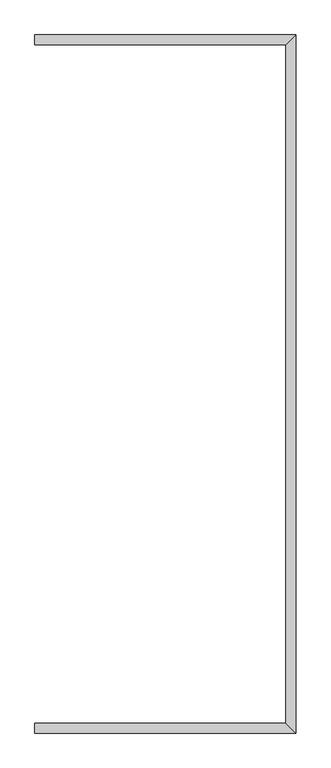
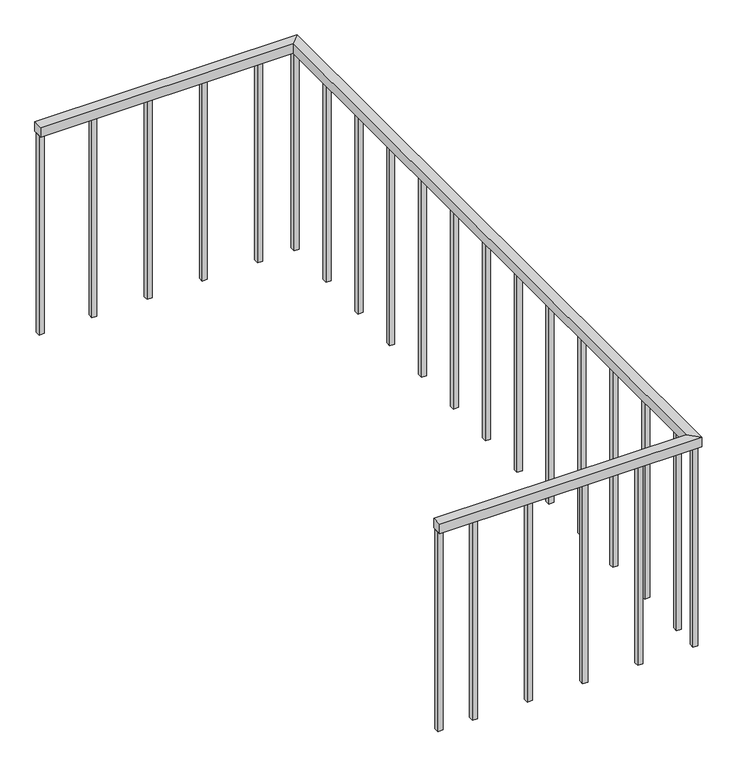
"""IFC4 building model written with IfcOpenShell, lengths in millimetres: railing geometry, 1100 мм."""

from ifc_helpers import new_model, si_unit, frame, origin, place, context, project, spatial, polyline, outline, extrude, faceted_brep, source, transform, mapped, element, save


def railing_185072cb(model_context):
    return source(origin(), model_context, "Body", "SolidModel", [
        faceted_brep([(-1749.2998207, 4186.9374152, 4400.0), (-1749.2998207, 4236.9374152, 4400.0), (-1749.2998207, 4236.9374152, 4350.0), (-1749.2998207, 4186.9374152, 4350.0), (-491.7998207, 4186.9374152, 4400.0), (-441.7998207, 4236.9374152, 4400.0), (-441.7998207, 4236.9374152, 4350.0), (-491.7998207, 4186.9374152, 4350.0), (-491.7998207, 794.4374152, 4400.0), (-441.7998207, 744.4374152, 4400.0), (-441.7998207, 744.4374152, 4350.0), (-491.7998207, 794.4374152, 4350.0), (-1749.2998207, 794.4374152, 4400.0), (-1749.2998207, 794.4374152, 4350.0), (-1749.2998207, 744.4374152, 4350.0), (-1749.2998207, 744.4374152, 4400.0)], [[[0, 1, 2, 3]], [[1, 0, 4, 5]], [[2, 1, 5, 6]], [[3, 2, 6, 7]], [[0, 3, 7, 4]], [[5, 4, 8, 9]], [[6, 5, 9, 10]], [[7, 6, 10, 11]], [[4, 7, 11, 8]], [[12, 13, 14, 15]], [[9, 8, 12, 15]], [[10, 9, 15, 14]], [[11, 10, 14, 13]], [[8, 11, 13, 12]]]),
        extrude(outline(polyline([(-1554.2998207, 781.9374152), (-1554.2998207, 756.9374152), (-1579.2998207, 756.9374152), (-1579.2998207, 781.9374152), (-1554.2998207, 781.9374152)])), frame((0.0, 0.0, 3300.0), z_axis=(0.0, 0.0, 1.0), x_axis=(1.0, 0.0, 0.0)), (0.0, 0.0, 1.0), 1050.0),
        extrude(outline(polyline([(-1279.2998207, 781.9374152), (-1279.2998207, 756.9374152), (-1304.2998207, 756.9374152), (-1304.2998207, 781.9374152), (-1279.2998207, 781.9374152)])), frame((0.0, 0.0, 3300.0), z_axis=(0.0, 0.0, 1.0), x_axis=(1.0, 0.0, 0.0)), (0.0, 0.0, 1.0), 1050.0),
        extrude(outline(polyline([(-1004.2998207, 781.9374152), (-1004.2998207, 756.9374152), (-1029.2998207, 756.9374152), (-1029.2998207, 781.9374152), (-1004.2998207, 781.9374152)])), frame((0.0, 0.0, 3300.0), z_axis=(0.0, 0.0, 1.0), x_axis=(1.0, 0.0, 0.0)), (0.0, 0.0, 1.0), 1050.0),
        extrude(outline(polyline([(-729.2998207, 781.9374152), (-729.2998207, 756.9374152), (-754.2998207, 756.9374152), (-754.2998207, 781.9374152), (-729.2998207, 781.9374152)])), frame((0.0, 0.0, 3300.0), z_axis=(0.0, 0.0, 1.0), x_axis=(1.0, 0.0, 0.0)), (0.0, 0.0, 1.0), 1050.0),
        extrude(outline(polyline([(-479.2998207, 924.4374152), (-454.2998207, 924.4374152), (-454.2998207, 899.4374152), (-479.2998207, 899.4374152), (-479.2998207, 924.4374152)])), frame((0.0, 0.0, 3300.0), z_axis=(0.0, 0.0, 1.0), x_axis=(1.0, 0.0, 0.0)), (0.0, 0.0, 1.0), 1050.0),
        extrude(outline(polyline([(-479.2998207, 1199.4374152), (-454.2998207, 1199.4374152), (-454.2998207, 1174.4374152), (-479.2998207, 1174.4374152), (-479.2998207, 1199.4374152)])), frame((0.0, 0.0, 3300.0), z_axis=(0.0, 0.0, 1.0), x_axis=(1.0, 0.0, 0.0)), (0.0, 0.0, 1.0), 1050.0),
        extrude(outline(polyline([(-479.2998207, 1474.4374152), (-454.2998207, 1474.4374152), (-454.2998207, 1449.4374152), (-479.2998207, 1449.4374152), (-479.2998207, 1474.4374152)])), frame((0.0, 0.0, 3300.0), z_axis=(0.0, 0.0, 1.0), x_axis=(1.0, 0.0, 0.0)), (0.0, 0.0, 1.0), 1050.0),
        extrude(outline(polyline([(-479.2998207, 1749.4374152), (-454.2998207, 1749.4374152), (-454.2998207, 1724.4374152), (-479.2998207, 1724.4374152), (-479.2998207, 1749.4374152)])), frame((0.0, 0.0, 3300.0), z_axis=(0.0, 0.0, 1.0), x_axis=(1.0, 0.0, 0.0)), (0.0, 0.0, 1.0), 1050.0),
        extrude(outline(polyline([(-479.2998207, 2024.4374152), (-454.2998207, 2024.4374152), (-454.2998207, 1999.4374152), (-479.2998207, 1999.4374152), (-479.2998207, 2024.4374152)])), frame((0.0, 0.0, 3300.0), z_axis=(0.0, 0.0, 1.0), x_axis=(1.0, 0.0, 0.0)), (0.0, 0.0, 1.0), 1050.0),
        extrude(outline(polyline([(-479.2998207, 2299.4374152), (-454.2998207, 2299.4374152), (-454.2998207, 2274.4374152), (-479.2998207, 2274.4374152), (-479.2998207, 2299.4374152)])), frame((0.0, 0.0, 3300.0), z_axis=(0.0, 0.0, 1.0), x_axis=(1.0, 0.0, 0.0)), (0.0, 0.0, 1.0), 1050.0),
        extrude(outline(polyline([(-479.2998207, 2574.4374152), (-454.2998207, 2574.4374152), (-454.2998207, 2549.4374152), (-479.2998207, 2549.4374152), (-479.2998207, 2574.4374152)])), frame((0.0, 0.0, 3300.0), z_axis=(0.0, 0.0, 1.0), x_axis=(1.0, 0.0, 0.0)), (0.0, 0.0, 1.0), 1050.0),
        extrude(outline(polyline([(-479.2998207, 2849.4374152), (-454.2998207, 2849.4374152), (-454.2998207, 2824.4374152), (-479.2998207, 2824.4374152), (-479.2998207, 2849.4374152)])), frame((0.0, 0.0, 3300.0), z_axis=(0.0, 0.0, 1.0), x_axis=(1.0, 0.0, 0.0)), (0.0, 0.0, 1.0), 1050.0),
        extrude(outline(polyline([(-479.2998207, 3124.4374152), (-454.2998207, 3124.4374152), (-454.2998207, 3099.4374152), (-479.2998207, 3099.4374152), (-479.2998207, 3124.4374152)])), frame((0.0, 0.0, 3300.0), z_axis=(0.0, 0.0, 1.0), x_axis=(1.0, 0.0, 0.0)), (0.0, 0.0, 1.0), 1050.0),
        extrude(outline(polyline([(-479.2998207, 3399.4374152), (-454.2998207, 3399.4374152), (-454.2998207, 3374.4374152), (-479.2998207, 3374.4374152), (-479.2998207, 3399.4374152)])), frame((0.0, 0.0, 3300.0), z_axis=(0.0, 0.0, 1.0), x_axis=(1.0, 0.0, 0.0)), (0.0, 0.0, 1.0), 1050.0),
        extrude(outline(polyline([(-479.2998207, 3674.4374152), (-454.2998207, 3674.4374152), (-454.2998207, 3649.4374152), (-479.2998207, 3649.4374152), (-479.2998207, 3674.4374152)])), frame((0.0, 0.0, 3300.0), z_axis=(0.0, 0.0, 1.0), x_axis=(1.0, 0.0, 0.0)), (0.0, 0.0, 1.0), 1050.0),
        extrude(outline(polyline([(-479.2998207, 3949.4374152), (-454.2998207, 3949.4374152), (-454.2998207, 3924.4374152), (-479.2998207, 3924.4374152), (-479.2998207, 3949.4374152)])), frame((0.0, 0.0, 3300.0), z_axis=(0.0, 0.0, 1.0), x_axis=(1.0, 0.0, 0.0)), (0.0, 0.0, 1.0), 1050.0),
        extrude(outline(polyline([(-661.7998207, 4199.4374152), (-661.7998207, 4224.4374152), (-636.7998207, 4224.4374152), (-636.7998207, 4199.4374152), (-661.7998207, 4199.4374152)])), frame((0.0, 0.0, 3300.0), z_axis=(0.0, 0.0, 1.0), x_axis=(1.0, 0.0, 0.0)), (0.0, 0.0, 1.0), 1050.0),
        extrude(outline(polyline([(-936.7998207, 4199.4374152), (-936.7998207, 4224.4374152), (-911.7998207, 4224.4374152), (-911.7998207, 4199.4374152), (-936.7998207, 4199.4374152)])), frame((0.0, 0.0, 3300.0), z_axis=(0.0, 0.0, 1.0), x_axis=(1.0, 0.0, 0.0)), (0.0, 0.0, 1.0), 1050.0),
        extrude(outline(polyline([(-1211.7998207, 4199.4374152), (-1211.7998207, 4224.4374152), (-1186.7998207, 4224.4374152), (-1186.7998207, 4199.4374152), (-1211.7998207, 4199.4374152)])), frame((0.0, 0.0, 3300.0), z_axis=(0.0, 0.0, 1.0), x_axis=(1.0, 0.0, 0.0)), (0.0, 0.0, 1.0), 1050.0),
        extrude(outline(polyline([(-1486.7998207, 4199.4374152), (-1486.7998207, 4224.4374152), (-1461.7998207, 4224.4374152), (-1461.7998207, 4199.4374152), (-1486.7998207, 4199.4374152)])), frame((0.0, 0.0, 3300.0), z_axis=(0.0, 0.0, 1.0), x_axis=(1.0, 0.0, 0.0)), (0.0, 0.0, 1.0), 1050.0),
        extrude(outline(polyline([(-479.2998207, 781.9374152), (-454.2998207, 781.9374152), (-454.2998207, 756.9374152), (-479.2998207, 756.9374152), (-479.2998207, 781.9374152)])), frame((0.0, 0.0, 3300.0), z_axis=(0.0, 0.0, 1.0), x_axis=(1.0, 0.0, 0.0)), (0.0, 0.0, 1.0), 1050.0),
        extrude(outline(polyline([(-479.2998207, 4199.4374152), (-479.2998207, 4224.4374152), (-454.2998207, 4224.4374152), (-454.2998207, 4199.4374152), (-479.2998207, 4199.4374152)])), frame((0.0, 0.0, 3300.0), z_axis=(0.0, 0.0, 1.0), x_axis=(1.0, 0.0, 0.0)), (0.0, 0.0, 1.0), 1050.0),
        extrude(outline(polyline([(-1724.2998207, 781.9374152), (-1724.2998207, 756.9374152), (-1749.2998207, 756.9374152), (-1749.2998207, 781.9374152), (-1724.2998207, 781.9374152)])), frame((0.0, 0.0, 3300.0), z_axis=(0.0, 0.0, 1.0), x_axis=(1.0, 0.0, 0.0)), (0.0, 0.0, 1.0), 1050.0),
        extrude(outline(polyline([(-1749.2998207, 4199.4374152), (-1749.2998207, 4224.4374152), (-1724.2998207, 4224.4374152), (-1724.2998207, 4199.4374152), (-1749.2998207, 4199.4374152)])), frame((0.0, 0.0, 3300.0), z_axis=(0.0, 0.0, 1.0), x_axis=(1.0, 0.0, 0.0)), (0.0, 0.0, 1.0), 1050.0),
    ])


if __name__ == "__main__":
    model = new_model("IFC4")
    model_context = context("Model", 3, world=origin())
    ifc_project = project(units=[si_unit("LENGTHUNIT", "METRE", prefix="MILLI")], contexts=[model_context])
    site = spatial("IfcSite", under=ifc_project)
    building = spatial("IfcBuilding", under=site)
    placement = place(None, origin())
    railing_shape = railing_185072cb(model_context)
    element("IfcRailing", 1, ObjectType="1100 мм", at=placement, inside=building, context=model_context, shape_type="MappedRepresentation", body=[
        mapped(railing_shape, transform((0.0, 0.0, 0.0), x_axis=(1.0, 0.0, 0.0), y_axis=(0.0, 1.0, 0.0), z_axis=(0.0, 0.0, 1.0))),
    ])
    save(model, "model.ifc")
